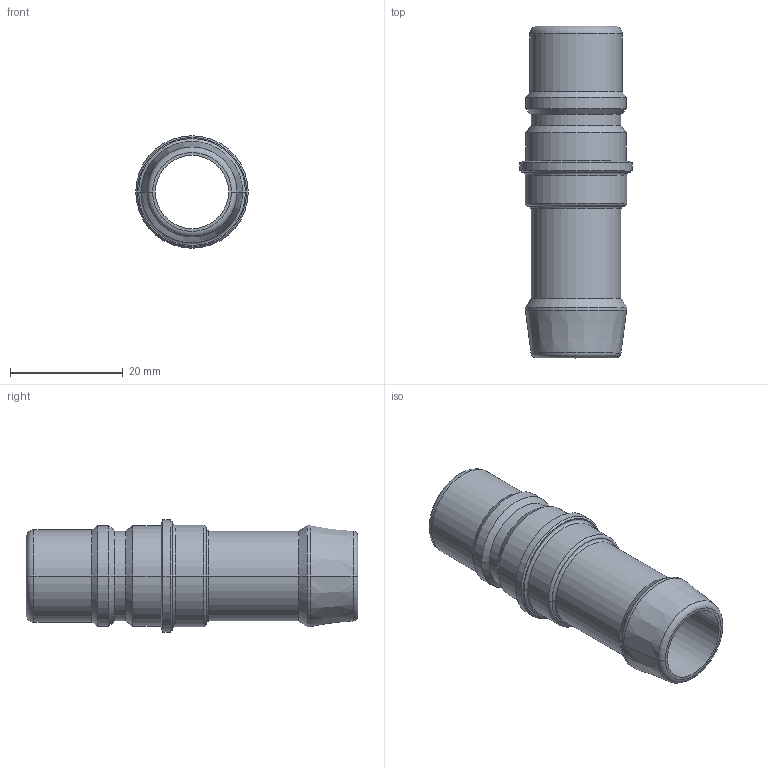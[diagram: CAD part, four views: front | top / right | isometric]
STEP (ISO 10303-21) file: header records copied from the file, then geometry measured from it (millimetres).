
FILE_DESCRIPTION (( 'STEP AP203' ), '1' );
FILE_NAME ('101-12-HU-16.STEP', '2021-10-21T14:20:49', ( '' ), ( '' ), 'SwSTEP 2.0', 'SolidWorks 2018', '' );
FILE_SCHEMA (( 'CONFIG_CONTROL_DESIGN' ));
Length unit declared in the file: millimetre
Products named in the file (1): 101-12-HU-16
Bounding box: 20 x 59 x 20 mm (x, y, z)
Volume: 5339.1 mm3; surface area: 5808.9 mm2
Topology: 1 solids, 1 shells, 46 faces, 92 edges, 50 vertices
Faces by surface type: cylinder 18, cone 14, torus 10, plane 4
Entity records: 1265 total; most frequent: DIRECTION 246, CARTESIAN_POINT 189, ORIENTED_EDGE 184, AXIS2_PLACEMENT_3D 107, EDGE_CURVE 92, CIRCLE 60, EDGE_LOOP 50, VERTEX_POINT 50
